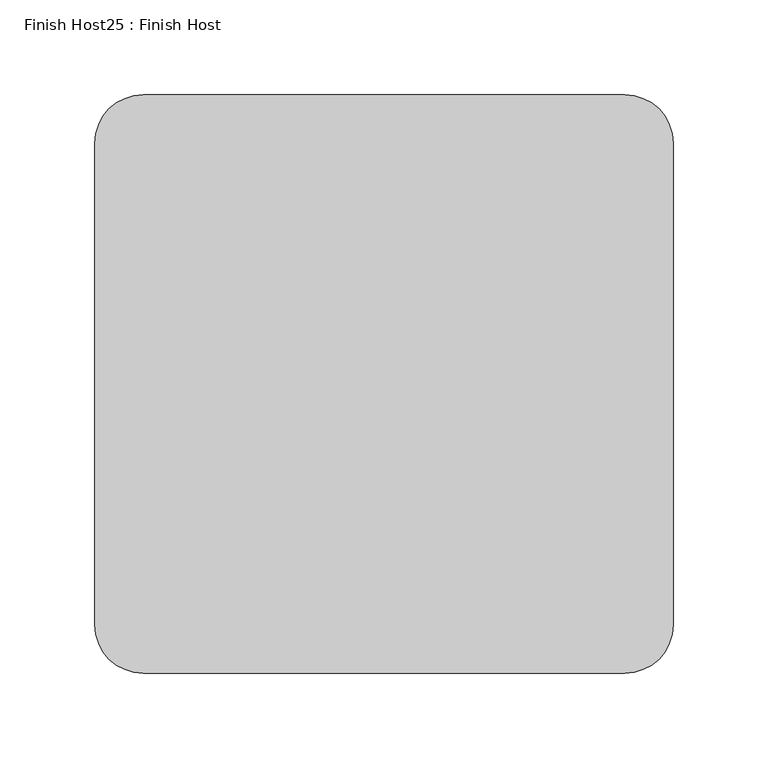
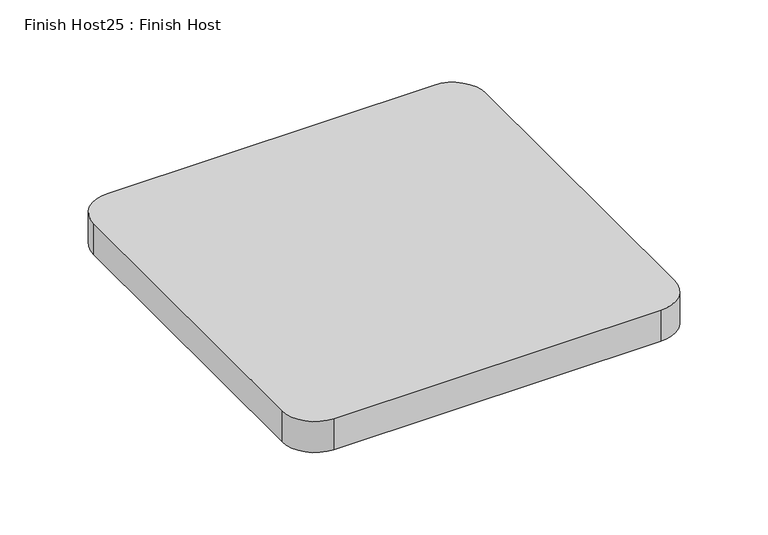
"""IFC4 building model written with IfcOpenShell, lengths in millimetres: proxy geometry, Finish Host25 : Finish Host."""

from ifc_helpers import new_model, si_unit, point, frame_2d, origin, origin_with_axes, place, context, project, spatial, polyline, circle_curve, trimmed, segment, composite_curve, outline, extrude, source, transform, mapped, element, save


def finish_host25_finish_host_878b78e8(model_context):
    return source(origin(), model_context, "Body", "SweptSolid", [
        extrude(outline(composite_curve([segment(polyline([(3628.5649374, 804.1667263), (3628.5649374, 1058.1667263)]), True, "CONTINUOUS"), segment(trimmed(circle_curve(frame_2d((3653.9649374, 1058.1667263)), 25.4), [point((3628.5649374, 1058.1667263))], [point((3653.9649374, 1083.5667263))], False, "CARTESIAN"), True, "CONTINUOUS"), segment(polyline([(3653.9649374, 1083.5667263), (3907.9649374, 1083.5667263)]), True, "CONTINUOUS"), segment(trimmed(circle_curve(frame_2d((3907.9649374, 1058.1667263)), 25.4), [point((3907.9649374, 1083.5667263))], [point((3933.3649374, 1058.1667263))], False, "CARTESIAN"), True, "CONTINUOUS"), segment(polyline([(3933.3649374, 1058.1667263), (3933.3649374, 804.1667263)]), True, "CONTINUOUS"), segment(trimmed(circle_curve(frame_2d((3907.9649374, 804.1667263)), 25.4), [point((3933.3649374, 804.1667263))], [point((3907.9649374, 778.7667263))], False, "CARTESIAN"), True, "CONTINUOUS"), segment(polyline([(3907.9649374, 778.7667263), (3653.9649374, 778.7667263)]), True, "CONTINUOUS"), segment(trimmed(circle_curve(frame_2d((3653.9649374, 804.1667263)), 25.4), [point((3653.9649374, 778.7667263))], [point((3628.5649374, 804.1667263))], False, "CARTESIAN"), True, "CONTINUOUS")], self_intersect=False)), origin_with_axes(), (0.0, 0.0, 1.0), 25.4),
    ])


if __name__ == "__main__":
    model = new_model("IFC4")
    model_context = context("Model", 3, world=origin())
    ifc_project = project(units=[si_unit("LENGTHUNIT", "METRE", prefix="MILLI")], contexts=[model_context])
    site = spatial("IfcSite", under=ifc_project)
    building = spatial("IfcBuilding", under=site)
    placement = place(None, origin())
    finish_host25_finish_host_shape = finish_host25_finish_host_878b78e8(model_context)
    element("IfcBuildingElementProxy", 1, Name="Finish Host25 : Finish Host", ObjectType="Finish Host25 : Finish Host", at=placement, inside=building, context=model_context, shape_type="MappedRepresentation", body=[
        mapped(finish_host25_finish_host_shape, transform((0.0, 0.0, 0.0), x_axis=(1.0, 0.0, 0.0), y_axis=(0.0, 1.0, 0.0), z_axis=(0.0, 0.0, 1.0))),
    ])
    save(model, "model.ifc")
